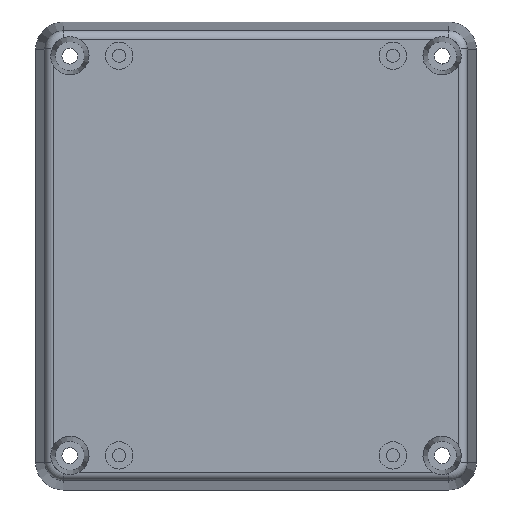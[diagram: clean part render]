
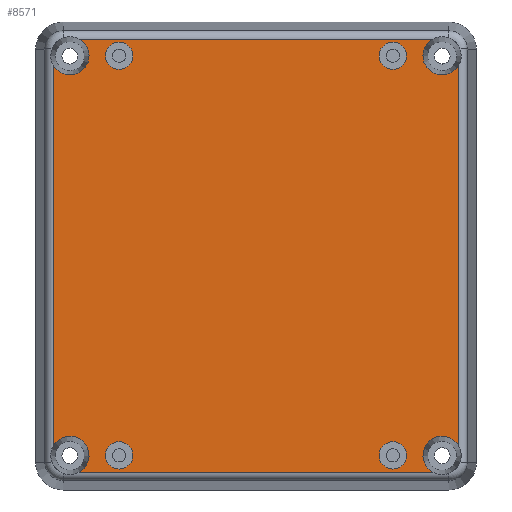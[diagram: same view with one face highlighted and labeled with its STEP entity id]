
A CAD part, top view. The second image highlights one B-rep face of the part: STEP entity #8571.
In plain terms, the highlighted planar face has unit normal (0, 0, 1).
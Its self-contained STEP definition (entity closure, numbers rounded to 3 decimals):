
#7333=CARTESIAN_POINT('',(37.068,-34.815,40.0));
#7334=VERTEX_POINT('',#7333);
#7335=CARTESIAN_POINT('',(37.068,34.815,40.0));
#7336=VERTEX_POINT('',#7335);
#7337=CARTESIAN_POINT('',(37.068,34.815,40.0));
#7338=DIRECTION('',(0.0,-1.0,0.0));
#7339=VECTOR('',#7338,69.63);
#7340=LINE('',#7337,#7339);
#7341=EDGE_CURVE('',#7334,#7336,#7340,.F.);
#8461=CARTESIAN_POINT('',(-35.25,-37.75,40.0));
#8462=DIRECTION('',(0.0,0.0,1.0));
#8463=DIRECTION('',(1.0,0.0,0.0));
#8464=AXIS2_PLACEMENT_3D('',#8461,#8462,#8463);
#8465=PLANE('',#8464);
#8466=CARTESIAN_POINT('',(-37.068,34.815,40.0));
#8467=VERTEX_POINT('',#8466);
#8468=CARTESIAN_POINT('',(-32.315,39.568,40.0));
#8469=VERTEX_POINT('',#8468);
#8470=CARTESIAN_POINT('',(-34.0,36.5,40.0));
#8471=DIRECTION('',(0.0,0.0,1.0));
#8472=DIRECTION('',(1.0,0.0,0.0));
#8473=AXIS2_PLACEMENT_3D('',#8470,#8471,#8472);
#8474=CIRCLE('',#8473,3.5);
#8475=EDGE_CURVE('',#8467,#8469,#8474,.T.);
#8476=ORIENTED_EDGE('',*,*,#8475,.F.);
#8477=CARTESIAN_POINT('',(-37.068,-34.815,40.0));
#8478=VERTEX_POINT('',#8477);
#8479=CARTESIAN_POINT('',(-37.068,-34.815,40.0));
#8480=DIRECTION('',(0.0,1.0,0.0));
#8481=VECTOR('',#8480,69.63);
#8482=LINE('',#8479,#8481);
#8483=EDGE_CURVE('',#8467,#8478,#8482,.F.);
#8484=ORIENTED_EDGE('',*,*,#8483,.T.);
#8485=CARTESIAN_POINT('',(-32.315,-39.568,40.0));
#8486=VERTEX_POINT('',#8485);
#8487=CARTESIAN_POINT('',(-34.0,-36.5,40.0));
#8488=DIRECTION('',(0.0,0.0,-1.0));
#8489=DIRECTION('',(-1.0,0.0,0.0));
#8490=AXIS2_PLACEMENT_3D('',#8487,#8488,#8489);
#8491=CIRCLE('',#8490,3.5);
#8492=EDGE_CURVE('',#8478,#8486,#8491,.T.);
#8493=ORIENTED_EDGE('',*,*,#8492,.T.);
#8494=CARTESIAN_POINT('',(32.315,-39.568,40.0));
#8495=VERTEX_POINT('',#8494);
#8496=CARTESIAN_POINT('',(32.315,-39.568,40.0));
#8497=DIRECTION('',(-1.0,0.0,0.0));
#8498=VECTOR('',#8497,64.63);
#8499=LINE('',#8496,#8498);
#8500=EDGE_CURVE('',#8486,#8495,#8499,.F.);
#8501=ORIENTED_EDGE('',*,*,#8500,.T.);
#8502=CARTESIAN_POINT('',(34.0,-36.5,40.0));
#8503=DIRECTION('',(0.0,0.0,1.0));
#8504=DIRECTION('',(1.0,0.0,0.0));
#8505=AXIS2_PLACEMENT_3D('',#8502,#8503,#8504);
#8506=CIRCLE('',#8505,3.5);
#8507=EDGE_CURVE('',#7334,#8495,#8506,.T.);
#8508=ORIENTED_EDGE('',*,*,#8507,.F.);
#8509=ORIENTED_EDGE('',*,*,#7341,.T.);
#8510=CARTESIAN_POINT('',(32.315,39.568,40.0));
#8511=VERTEX_POINT('',#8510);
#8512=CARTESIAN_POINT('',(34.0,36.5,40.0));
#8513=DIRECTION('',(0.0,0.0,-1.0));
#8514=DIRECTION('',(-1.0,0.0,0.0));
#8515=AXIS2_PLACEMENT_3D('',#8512,#8513,#8514);
#8516=CIRCLE('',#8515,3.5);
#8517=EDGE_CURVE('',#7336,#8511,#8516,.T.);
#8518=ORIENTED_EDGE('',*,*,#8517,.T.);
#8519=CARTESIAN_POINT('',(-32.315,39.568,40.0));
#8520=DIRECTION('',(1.0,0.0,0.0));
#8521=VECTOR('',#8520,64.63);
#8522=LINE('',#8519,#8521);
#8523=EDGE_CURVE('',#8511,#8469,#8522,.F.);
#8524=ORIENTED_EDGE('',*,*,#8523,.T.);
#8525=EDGE_LOOP('',(#8476,#8484,#8493,#8501,#8508,#8509,#8518,#8524));
#8526=FACE_OUTER_BOUND('',#8525,.T.);
#8527=CARTESIAN_POINT('',(-27.5,36.5,40.0));
#8528=VERTEX_POINT('',#8527);
#8529=CARTESIAN_POINT('',(-25.0,36.5,40.0));
#8530=DIRECTION('',(0.0,0.0,-1.0));
#8531=DIRECTION('',(-1.0,0.0,0.0));
#8532=AXIS2_PLACEMENT_3D('',#8529,#8530,#8531);
#8533=CIRCLE('',#8532,2.5);
#8534=EDGE_CURVE('',#8528,#8528,#8533,.T.);
#8535=ORIENTED_EDGE('',*,*,#8534,.T.);
#8536=EDGE_LOOP('',(#8535));
#8537=FACE_BOUND('',#8536,.T.);
#8538=CARTESIAN_POINT('',(-22.5,-36.5,40.0));
#8539=VERTEX_POINT('',#8538);
#8540=CARTESIAN_POINT('',(-25.0,-36.5,40.0));
#8541=DIRECTION('',(0.0,0.0,1.0));
#8542=DIRECTION('',(1.0,0.0,0.0));
#8543=AXIS2_PLACEMENT_3D('',#8540,#8541,#8542);
#8544=CIRCLE('',#8543,2.5);
#8545=EDGE_CURVE('',#8539,#8539,#8544,.T.);
#8546=ORIENTED_EDGE('',*,*,#8545,.F.);
#8547=EDGE_LOOP('',(#8546));
#8548=FACE_BOUND('',#8547,.T.);
#8549=CARTESIAN_POINT('',(27.5,36.5,40.0));
#8550=VERTEX_POINT('',#8549);
#8551=CARTESIAN_POINT('',(25.0,36.5,40.0));
#8552=DIRECTION('',(0.0,0.0,1.0));
#8553=DIRECTION('',(1.0,0.0,0.0));
#8554=AXIS2_PLACEMENT_3D('',#8551,#8552,#8553);
#8555=CIRCLE('',#8554,2.5);
#8556=EDGE_CURVE('',#8550,#8550,#8555,.T.);
#8557=ORIENTED_EDGE('',*,*,#8556,.F.);
#8558=EDGE_LOOP('',(#8557));
#8559=FACE_BOUND('',#8558,.T.);
#8560=CARTESIAN_POINT('',(22.5,-36.5,40.0));
#8561=VERTEX_POINT('',#8560);
#8562=CARTESIAN_POINT('',(25.0,-36.5,40.0));
#8563=DIRECTION('',(0.0,0.0,-1.0));
#8564=DIRECTION('',(-1.0,0.0,0.0));
#8565=AXIS2_PLACEMENT_3D('',#8562,#8563,#8564);
#8566=CIRCLE('',#8565,2.5);
#8567=EDGE_CURVE('',#8561,#8561,#8566,.T.);
#8568=ORIENTED_EDGE('',*,*,#8567,.T.);
#8569=EDGE_LOOP('',(#8568));
#8570=FACE_BOUND('',#8569,.T.);
#8571=ADVANCED_FACE('',(#8526,#8537,#8548,#8559,#8570),#8465,.T.);
